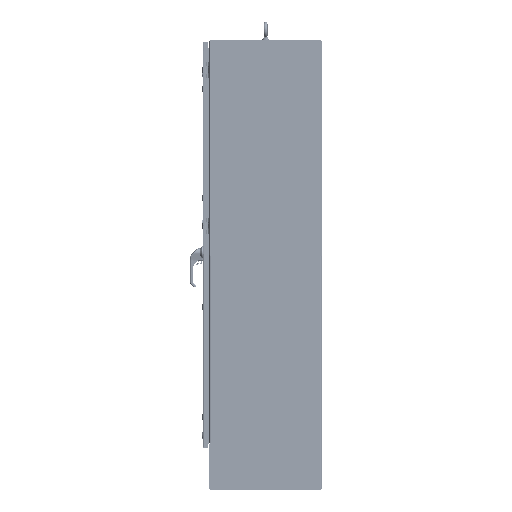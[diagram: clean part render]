
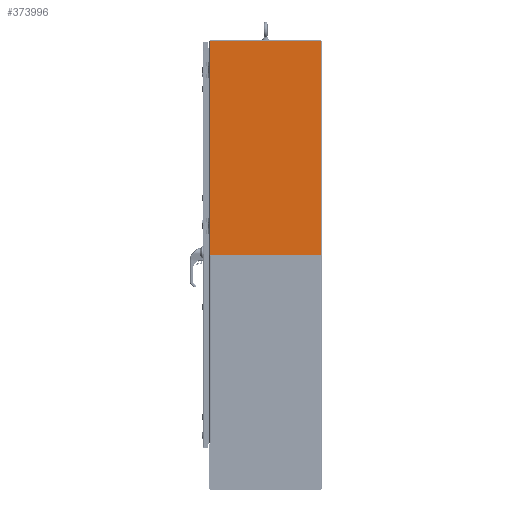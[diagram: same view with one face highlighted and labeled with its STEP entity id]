
A CAD part, front view. The second image highlights one B-rep face of the part: STEP entity #373996.
In plain terms, the highlighted planar face has unit normal (0, -1, 0).
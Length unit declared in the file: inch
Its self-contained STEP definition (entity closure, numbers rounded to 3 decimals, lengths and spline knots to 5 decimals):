
#372841=CARTESIAN_POINT('',(-17.107,0.,-8.857));
#372842=DIRECTION('',(0.,-1.,0.));
#372843=DIRECTION('',(-1.,0.,0.));
#372844=AXIS2_PLACEMENT_3D('',#372841,#372842,#372843);
#372849=CARTESIAN_POINT('',(17.107,0.,-8.857));
#372850=DIRECTION('',(0.,-1.,0.));
#372851=DIRECTION('',(0.,0.,-1.));
#372852=AXIS2_PLACEMENT_3D('',#372849,#372850,#372851);
#372857=DIRECTION('',(1.,0.,0.));
#372858=VECTOR('',#372857,34.214);
#372859=CARTESIAN_POINT('',(-17.107,0.,-8.937));
#372860=LINE('',#372859,#372858);
#372885=DIRECTION('',(0.,0.,1.));
#372886=VECTOR('',#372885,17.712);
#372887=CARTESIAN_POINT('',(17.187,0.,-8.857));
#372888=LINE('',#372887,#372886);
#372928=DIRECTION('',(-1.,0.,0.));
#372929=VECTOR('',#372928,34.374);
#372930=CARTESIAN_POINT('',(17.187,0.,8.855));
#372931=LINE('',#372930,#372929);
#373416=DIRECTION('',(0.,0.,-1.));
#373417=VECTOR('',#373416,17.712);
#373418=CARTESIAN_POINT('',(-17.187,0.,8.855));
#373419=LINE('',#373418,#373417);
#373821=CARTESIAN_POINT('',(17.187,0.,8.855));
#373822=VERTEX_POINT('',#373821);
#373823=CARTESIAN_POINT('',(-17.187,0.,8.855));
#373824=VERTEX_POINT('',#373823);
#373889=CARTESIAN_POINT('',(-17.187,0.,-8.857));
#373890=CARTESIAN_POINT('',(-17.107,0.,-8.937));
#373891=VERTEX_POINT('',#373889);
#373892=VERTEX_POINT('',#373890);
#373897=CARTESIAN_POINT('',(17.107,0.,-8.937));
#373898=CARTESIAN_POINT('',(17.187,0.,-8.857));
#373899=VERTEX_POINT('',#373897);
#373900=VERTEX_POINT('',#373898);
#373977=CARTESIAN_POINT('',(0.,0.,0.));
#373978=DIRECTION('',(0.,-1.,0.));
#373979=DIRECTION('',(-1.,0.,0.));
#373980=AXIS2_PLACEMENT_3D('',#373977,#373978,#373979);
#373981=PLANE('',#373980);
#373983=ORIENTED_EDGE('',*,*,#373982,.F.);
#373985=ORIENTED_EDGE('',*,*,#373984,.F.);
#373987=ORIENTED_EDGE('',*,*,#373986,.F.);
#373989=ORIENTED_EDGE('',*,*,#373988,.F.);
#373991=ORIENTED_EDGE('',*,*,#373990,.F.);
#373993=ORIENTED_EDGE('',*,*,#373992,.F.);
#373994=EDGE_LOOP('',(#373983,#373985,#373987,#373989,#373991,#373993));
#373995=FACE_OUTER_BOUND('',#373994,.F.);
#372845=CIRCLE('',#372844,0.08);
#372853=CIRCLE('',#372852,0.08);
#373982=EDGE_CURVE('',#373891,#373892,#372845,.T.);
#373984=EDGE_CURVE('',#373824,#373891,#373419,.T.);
#373986=EDGE_CURVE('',#373822,#373824,#372931,.T.);
#373988=EDGE_CURVE('',#373900,#373822,#372888,.T.);
#373990=EDGE_CURVE('',#373899,#373900,#372853,.T.);
#373992=EDGE_CURVE('',#373892,#373899,#372860,.T.);
#373996=ADVANCED_FACE('',(#373995),#373981,.T.);
